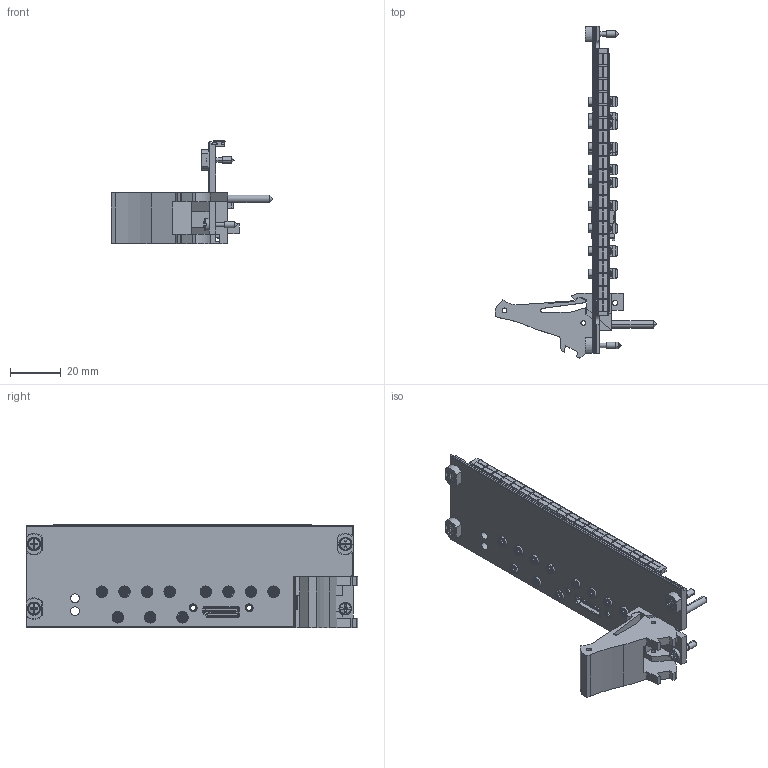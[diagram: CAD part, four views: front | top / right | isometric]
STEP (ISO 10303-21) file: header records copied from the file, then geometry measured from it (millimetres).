
FILE_DESCRIPTION((''),'2;1');
FILE_NAME('ASSY_CU_RENAULT','2018-03-06T',('jjorden'),(''),'CREO PARAMETRIC BY PTC INC, 2015380','CREO PARAMETRIC BY PTC INC, 2015380','');
FILE_SCHEMA(('CONFIG_CONTROL_DESIGN'));
Length unit declared in the file: inch
Products named in the file (1): ASSY_CU_RENAULT
Bounding box: 63.53 x 130.5 x 40.61 mm (x, y, z)
Volume: 23590.4 mm3; surface area: 25711.4 mm2
Topology: 14 solids, 14 shells, 4377 faces, 12662 edges, 8454 vertices
Faces by surface type: plane 2255, cylinder 1253, bspline 442, cone 268, torus 148, sphere 10, extrusion 1
Entity records: 161784 total; most frequent: CARTESIAN_POINT 47004, ORIENTED_EDGE 25258, DIRECTION 22431, EDGE_CURVE 12629, VERTEX_POINT 8454, VECTOR 7721, LINE 7720, AXIS2_PLACEMENT_3D 7355
